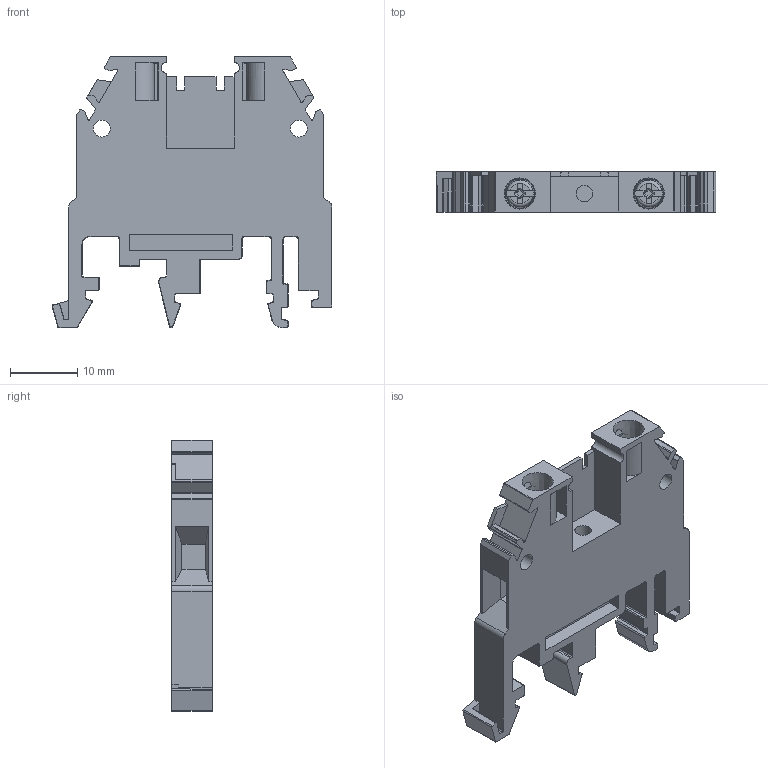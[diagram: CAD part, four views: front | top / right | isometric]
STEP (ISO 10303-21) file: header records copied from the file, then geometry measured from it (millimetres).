
FILE_DESCRIPTION(/* description */ ('Unknown'),/* implementation_level */ '2;1');
FILE_NAME(/* name */ 'RS 4',/* time_stamp */ '2021-03-15T07:57:24+01:00',/* author */ ('Unknown'),/* organization */ ('Unknown'),/* preprocessor_version */ 'ST-DEVELOPER v16.7',/* originating_system */ 'Solid Edge',/* authorisation */ 'Unknown');
FILE_SCHEMA (('AUTOMOTIVE_DESIGN {1 0 10303 214 3 1 1}'));
Length unit declared in the file: millimetre
Products named in the file (1): RS 4
Bounding box: 41.47 x 6 x 40.2 mm (x, y, z)
Volume: 5460.5 mm3; surface area: 4628 mm2
Topology: 1 solids, 3 shells, 352 faces, 963 edges, 633 vertices
Faces by surface type: plane 240, cylinder 100, cone 8, torus 4
Full cylindrical faces by diameter (mm): 2.459 x1, 2.5 x2, 3 x2, 3.2 x2, 4.3 x2
Entity records: 13459 total; most frequent: CARTESIAN_POINT 2015, ORIENTED_EDGE 1868, DIRECTION 1845, EDGE_CURVE 934, LINE 667, VECTOR 667, VERTEX_POINT 621, AXIS2_PLACEMENT_3D 589
